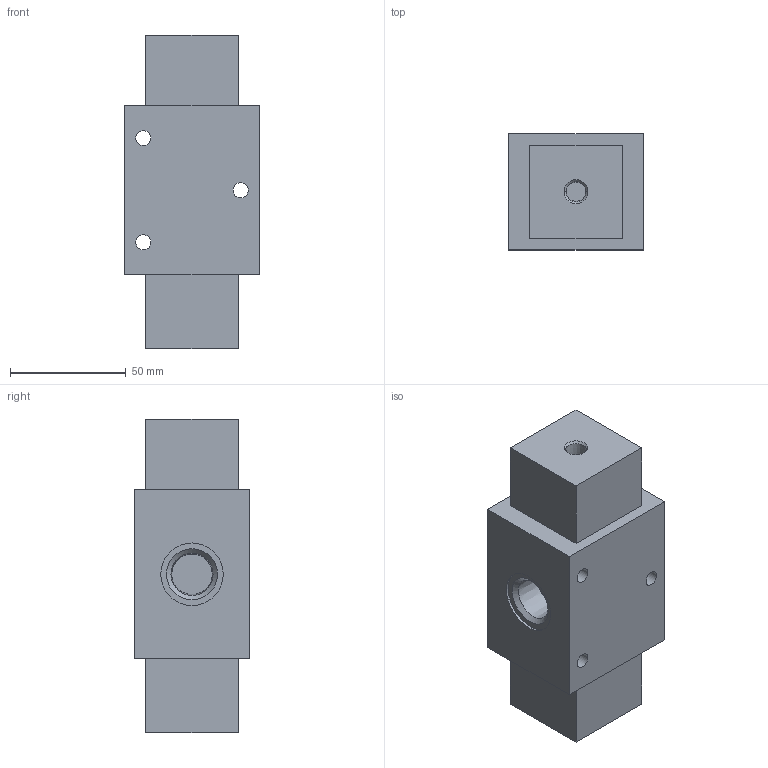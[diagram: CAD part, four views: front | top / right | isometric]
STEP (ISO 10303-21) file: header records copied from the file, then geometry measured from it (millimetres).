
FILE_DESCRIPTION(/* description */ ('V. 3/2 PNEUM.-MOLLA PER ALTE TEMP.'),/* implementation_level */ '2;1');
FILE_NAME(/* name */ 'I:\Area Tecnica\Progetti\P118 (OIL&GAS)\DOCUMENTAZIONE\CATALOGO\VALVOLE INOX\LIBRERIA - SS VALV INOX\VALV SS12 NPT\SS1232#####-\SS1232C1101#.stp',/* time_stamp */ '2016-06-14T08:09:50+02:00',/* author */ ('Maniean1'),/* organization */ ('Pneumax S.p.A.'),/* preprocessor_version */ 'ST-DEVELOPER v15.2',/* originating_system */ 'Autodesk Inventor 2014',/* authorisation */ '');
FILE_SCHEMA (('AUTOMOTIVE_DESIGN { 1 0 10303 214 3 1 1 }'));
Length unit declared in the file: millimetre
Products named in the file (1): SS1232C1101#
Bounding box: 58 x 50 x 135.5 mm (x, y, z)
Volume: 293007.6 mm3; surface area: 37141.1 mm2
Topology: 1 solids, 1 shells, 40 faces, 90 edges, 61 vertices
Faces by surface type: plane 23, cylinder 9, cone 8
Full cylindrical faces by diameter (mm): 6.5 x3, 17.475 x3, 27 x3
Entity records: 986 total; most frequent: DIRECTION 172, CARTESIAN_POINT 155, ORIENTED_EDGE 126, EDGE_LOOP 72, AXIS2_PLACEMENT_3D 68, EDGE_CURVE 63, VERTEX_POINT 51, FACE_BOUND 42
